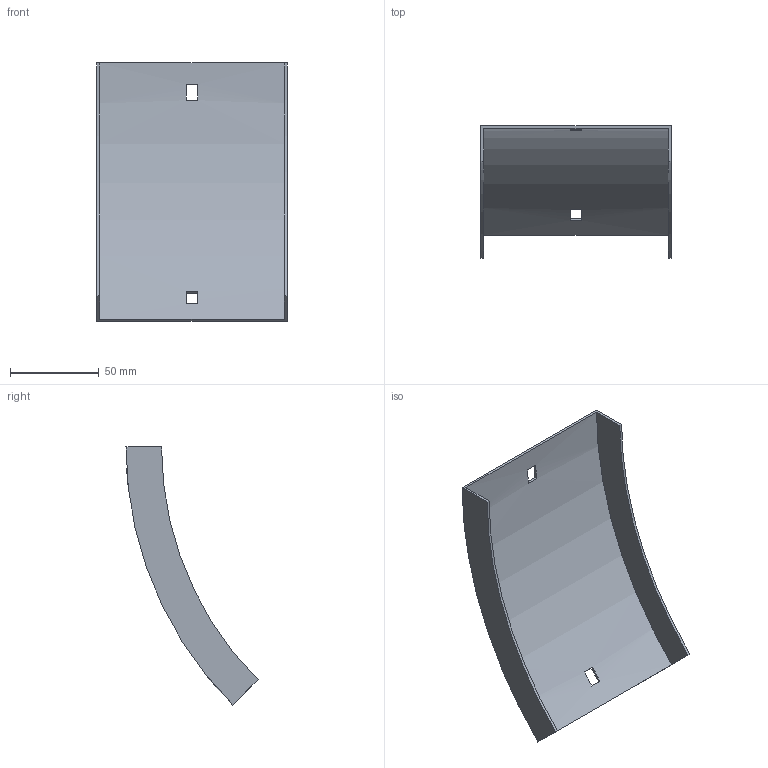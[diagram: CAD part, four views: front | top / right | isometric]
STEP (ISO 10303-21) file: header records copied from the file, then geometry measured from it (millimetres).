
FILE_DESCRIPTION (( 'STEP AP214' ), '1' );
FILE_NAME ('34N1D100.step', '2025-02-21T09:13:48', ( '' ), ( '' ), 'SwSTEP 2.0', 'SolidWorks 2023', '' );
FILE_SCHEMA (( 'AUTOMOTIVE_DESIGN' ));
Length unit declared in the file: millimetre
Products named in the file (1): 34N1D100
Bounding box: 107 x 74.33 x 145.31 mm (x, y, z)
Volume: 34123 mm3; surface area: 46461.5 mm2
Topology: 1 solids, 1 shells, 18 faces, 48 edges, 32 vertices
Faces by surface type: plane 14, cylinder 4
Entity records: 599 total; most frequent: DIRECTION 102, CARTESIAN_POINT 99, ORIENTED_EDGE 96, EDGE_CURVE 48, AXIS2_PLACEMENT_3D 35, VERTEX_POINT 32, VECTOR 32, LINE 32
